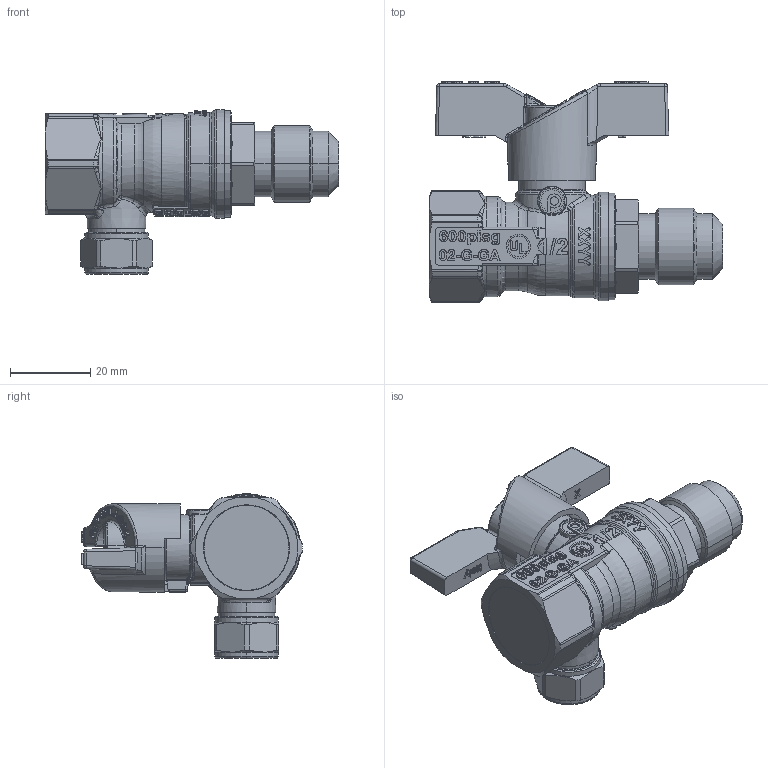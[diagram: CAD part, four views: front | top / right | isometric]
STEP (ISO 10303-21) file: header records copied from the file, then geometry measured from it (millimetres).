
FILE_DESCRIPTION((''),'2;1');
FILE_NAME('T203FM_1-2_ASM','2021-08-04T10:49:31',('Sergio.Dandrea'),(''),'CREO PARAMETRIC BY PTC INC, 2021063','CREO PARAMETRIC BY PTC INC, 2021063','');
FILE_SCHEMA(('CONFIG_CONTROL_DESIGN'));
Products named in the file (14): 89161; SEDE_PTFE_F12; 87057; OR_107_AF0; OR_107_AF1; ASTA_T203_1-2_O-RING_ASM; 88402; 88405; 87046; 87131; 00191; 87218; 87058; T203FM_1-2_ASM
Assembly tree (14 placements, depth 3):
  T203FM_1-2_ASM
    89161
    SEDE_PTFE_F12  x2
    ASTA_T203_1-2_O-RING_ASM
      87057
      OR_107_AF0
      OR_107_AF1
    88402
    88405
    87046
    87131
    00191
    87218
    87058
Bounding box: 72.9 x 54.9 x 41 mm (x, y, z)
Volume: 31569.7 mm3; surface area: 28288 mm2
Topology: 13 solids, 24 shells, 2251 faces, 5943 edges, 3835 vertices
Faces by surface type: extrusion 1013, plane 575, cylinder 241, bspline 165, cone 125, torus 74, sphere 36, revolution 22
Entity records: 85667 total; most frequent: CARTESIAN_POINT 35042, ORIENTED_EDGE 11765, DIRECTION 7390, EDGE_CURVE 5911, VERTEX_POINT 3819, B_SPLINE_CURVE_WITH_KNOTS 3628, VECTOR 3454, LINE 2441
